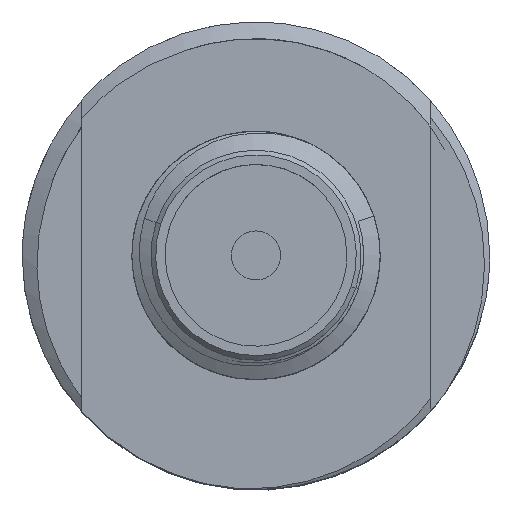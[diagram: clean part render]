
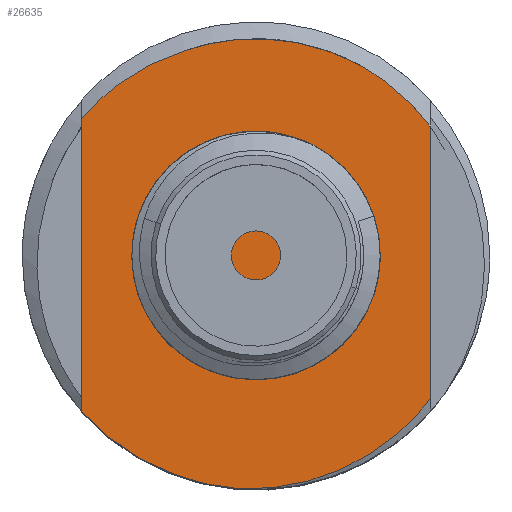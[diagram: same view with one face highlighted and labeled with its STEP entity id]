
A CAD part, top view. The second image highlights one B-rep face of the part: STEP entity #26635.
In plain terms, the highlighted planar face has unit normal (0, 0, 1).
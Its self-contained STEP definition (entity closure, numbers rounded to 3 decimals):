
#1460 = VERTEX_POINT ( 'NONE', #27342 ) ;
#8001 = CARTESIAN_POINT ( 'NONE',  ( -4.442, -3.963, 14.478 ) ) ;
#8180 = CIRCLE ( 'NONE', #8223, 5.953 ) ;
#8220 = DIRECTION ( 'NONE',  ( -1., 0., 0. ) ) ;
#8221 = DIRECTION ( 'NONE',  ( 0., 0., -1. ) ) ;
#8222 = CARTESIAN_POINT ( 'NONE',  ( 0., 0., 14.478 ) ) ;
#8223 = AXIS2_PLACEMENT_3D ( 'NONE', #8222, #8221, #8220 ) ;
#8224 = CARTESIAN_POINT ( 'NONE',  ( -0.389, -5.94, 14.478 ) ) ;
#20143 = CARTESIAN_POINT ( 'NONE',  ( -4.442, 3.489, 14.478 ) ) ;
#20144 = CARTESIAN_POINT ( 'NONE',  ( -4.269, 3.693, 14.478 ) ) ;
#20145 = CARTESIAN_POINT ( 'NONE',  ( -4.08, 3.886, 14.478 ) ) ;
#20146 = CARTESIAN_POINT ( 'NONE',  ( -3.682, 4.239, 14.478 ) ) ;
#20147 = CARTESIAN_POINT ( 'NONE',  ( -3.472, 4.4, 14.478 ) ) ;
#20148 = CARTESIAN_POINT ( 'NONE',  ( -3.027, 4.692, 14.478 ) ) ;
#20149 = CARTESIAN_POINT ( 'NONE',  ( -2.792, 4.824, 14.478 ) ) ;
#20150 = CARTESIAN_POINT ( 'NONE',  ( -2.306, 5.05, 14.478 ) ) ;
#20151 = CARTESIAN_POINT ( 'NONE',  ( -2.055, 5.146, 14.478 ) ) ;
#20152 = CARTESIAN_POINT ( 'NONE',  ( -1.797, 5.223, 14.478 ) ) ;
#20153 = CARTESIAN_POINT ( 'NONE',  ( -1.797, 5.223, 14.478 ) ) ;
#20154 = B_SPLINE_CURVE_WITH_KNOTS ( 'NONE', 3,
 ( #20152, #20151, #20150, #20149, #20148, #20147, #20146, #20145, #20144, #20143 ),
 .UNSPECIFIED., .F., .F.,
 ( 4, 2, 2, 2, 4 ),
 ( 0., 0.001, 0.002, 0.002, 0.003 ),
 .UNSPECIFIED. ) ;
#20162 = CARTESIAN_POINT ( 'NONE',  ( -4.442, 3.489, 14.478 ) ) ;
#21519 = B_SPLINE_CURVE_WITH_KNOTS ( 'NONE', 3,
 ( #21566, #21565, #21564, #21563, #21562, #21561, #21560, #21559, #21558, #21557, #21556, #21555, #21554, #21553, #21552, #21551 ),
 .UNSPECIFIED., .F., .F.,
 ( 4, 2, 2, 2, 2, 2, 2, 4 ),
 ( 0., 0.001, 0.001, 0.003, 0.003, 0.004, 0.005, 0.006 ),
 .UNSPECIFIED. ) ;
#21528 = CARTESIAN_POINT ( 'NONE',  ( 4.448, -3.639, 14.478 ) ) ;
#21551 = CARTESIAN_POINT ( 'NONE',  ( 4.448, -3.639, 14.478 ) ) ;
#21552 = CARTESIAN_POINT ( 'NONE',  ( 4.308, -3.823, 14.478 ) ) ;
#21553 = CARTESIAN_POINT ( 'NONE',  ( 4.156, -4., 14.478 ) ) ;
#21554 = CARTESIAN_POINT ( 'NONE',  ( 3.832, -4.334, 14.478 ) ) ;
#21555 = CARTESIAN_POINT ( 'NONE',  ( 3.661, -4.49, 14.478 ) ) ;
#21556 = CARTESIAN_POINT ( 'NONE',  ( 3.303, -4.781, 14.478 ) ) ;
#21557 = CARTESIAN_POINT ( 'NONE',  ( 3.116, -4.915, 14.478 ) ) ;
#21558 = CARTESIAN_POINT ( 'NONE',  ( 2.725, -5.162, 14.478 ) ) ;
#21559 = CARTESIAN_POINT ( 'NONE',  ( 2.519, -5.276, 14.478 ) ) ;
#21560 = CARTESIAN_POINT ( 'NONE',  ( 1.89, -5.575, 14.478 ) ) ;
#21561 = CARTESIAN_POINT ( 'NONE',  ( 1.454, -5.722, 14.478 ) ) ;
#21562 = CARTESIAN_POINT ( 'NONE',  ( 0.773, -5.865, 14.478 ) ) ;
#21563 = CARTESIAN_POINT ( 'NONE',  ( 0.541, -5.9, 14.478 ) ) ;
#21564 = CARTESIAN_POINT ( 'NONE',  ( 0.077, -5.941, 14.478 ) ) ;
#21565 = CARTESIAN_POINT ( 'NONE',  ( -0.156, -5.947, 14.478 ) ) ;
#21566 = CARTESIAN_POINT ( 'NONE',  ( -0.389, -5.94, 14.478 ) ) ;
#26632 = ORIENTED_EDGE ( 'NONE', *, *, #38864, .T. ) ;
#26635 = ADVANCED_FACE ( 'NONE', ( #33176 ), #33175, .F. ) ;
#26637 = EDGE_LOOP ( 'NONE', ( #26632, #26811, #26794, #26790, #26792, #26674 ) ) ;
#26674 = ORIENTED_EDGE ( 'NONE', *, *, #36417, .T. ) ;
#26790 = ORIENTED_EDGE ( 'NONE', *, *, #38887, .T. ) ;
#26791 = EDGE_CURVE ( 'NONE', #38885, #1460, #31903, .T. ) ;
#26792 = ORIENTED_EDGE ( 'NONE', *, *, #26791, .T. ) ;
#26794 = ORIENTED_EDGE ( 'NONE', *, *, #38746, .F. ) ;
#26795 = EDGE_CURVE ( 'NONE', #38862, #38666, #33287, .T. ) ;
#26811 = ORIENTED_EDGE ( 'NONE', *, *, #26795, .T. ) ;
#27342 = CARTESIAN_POINT ( 'NONE',  ( 4.448, 3.275, 14.478 ) ) ;
#31900 = DIRECTION ( 'NONE',  ( 0., 1., 0. ) ) ;
#31901 = VECTOR ( 'NONE', #31900, 1000. ) ;
#31902 = CARTESIAN_POINT ( 'NONE',  ( 4.448, 74.59, 14.478 ) ) ;
#31903 = LINE ( 'NONE', #31902, #31901 ) ;
#33171 = DIRECTION ( 'NONE',  ( -1., 0., 0. ) ) ;
#33172 = DIRECTION ( 'NONE',  ( 0., 0., -1. ) ) ;
#33173 = CARTESIAN_POINT ( 'NONE',  ( -14.932, 74.59, 14.478 ) ) ;
#33174 = AXIS2_PLACEMENT_3D ( 'NONE', #33173, #33172, #33171 ) ;
#33175 = PLANE ( 'NONE',  #33174 ) ;
#33176 = FACE_OUTER_BOUND ( 'NONE', #26637, .T. ) ;
#33284 = DIRECTION ( 'NONE',  ( 0., -1., 0. ) ) ;
#33285 = VECTOR ( 'NONE', #33284, 1000. ) ;
#33286 = CARTESIAN_POINT ( 'NONE',  ( -4.442, 74.59, 14.478 ) ) ;
#33287 = LINE ( 'NONE', #33286, #33285 ) ;
#33481 = CARTESIAN_POINT ( 'NONE',  ( -1.797, 5.223, 14.478 ) ) ;
#33482 = CARTESIAN_POINT ( 'NONE',  ( -1.52, 5.318, 14.478 ) ) ;
#33483 = CARTESIAN_POINT ( 'NONE',  ( -1.239, 5.391, 14.478 ) ) ;
#33484 = CARTESIAN_POINT ( 'NONE',  ( -0.667, 5.491, 14.478 ) ) ;
#33485 = CARTESIAN_POINT ( 'NONE',  ( -0.375, 5.519, 14.478 ) ) ;
#33486 = CARTESIAN_POINT ( 'NONE',  ( 0.502, 5.532, 14.478 ) ) ;
#33487 = CARTESIAN_POINT ( 'NONE',  ( 1.087, 5.447, 14.478 ) ) ;
#33488 = CARTESIAN_POINT ( 'NONE',  ( 2.204, 5.098, 14.478 ) ) ;
#33489 = CARTESIAN_POINT ( 'NONE',  ( 2.733, 4.835, 14.478 ) ) ;
#33491 = CARTESIAN_POINT ( 'NONE',  ( 3.677, 4.162, 14.478 ) ) ;
#33492 = CARTESIAN_POINT ( 'NONE',  ( 4.103, 3.744, 14.478 ) ) ;
#33493 = CARTESIAN_POINT ( 'NONE',  ( 4.448, 3.275, 14.478 ) ) ;
#33496 = B_SPLINE_CURVE_WITH_KNOTS ( 'NONE', 3,
 ( #33493, #33492, #33491, #33489, #33488, #33487, #33486, #33485, #33484, #33483, #33482, #33481 ),
 .UNSPECIFIED., .F., .F.,
 ( 4, 2, 2, 2, 2, 4 ),
 ( 0.002, 0.003, 0.005, 0.007, 0.008, 0.009 ),
 .UNSPECIFIED. ) ;
#36417 = EDGE_CURVE ( 'NONE', #1460, #38865, #33496, .T. ) ;
#38666 = VERTEX_POINT ( 'NONE', #8001 ) ;
#38746 = EDGE_CURVE ( 'NONE', #38747, #38666, #8180, .T. ) ;
#38747 = VERTEX_POINT ( 'NONE', #8224 ) ;
#38862 = VERTEX_POINT ( 'NONE', #20162 ) ;
#38864 = EDGE_CURVE ( 'NONE', #38865, #38862, #20154, .T. ) ;
#38865 = VERTEX_POINT ( 'NONE', #20153 ) ;
#38885 = VERTEX_POINT ( 'NONE', #21528 ) ;
#38887 = EDGE_CURVE ( 'NONE', #38747, #38885, #21519, .T. ) ;
